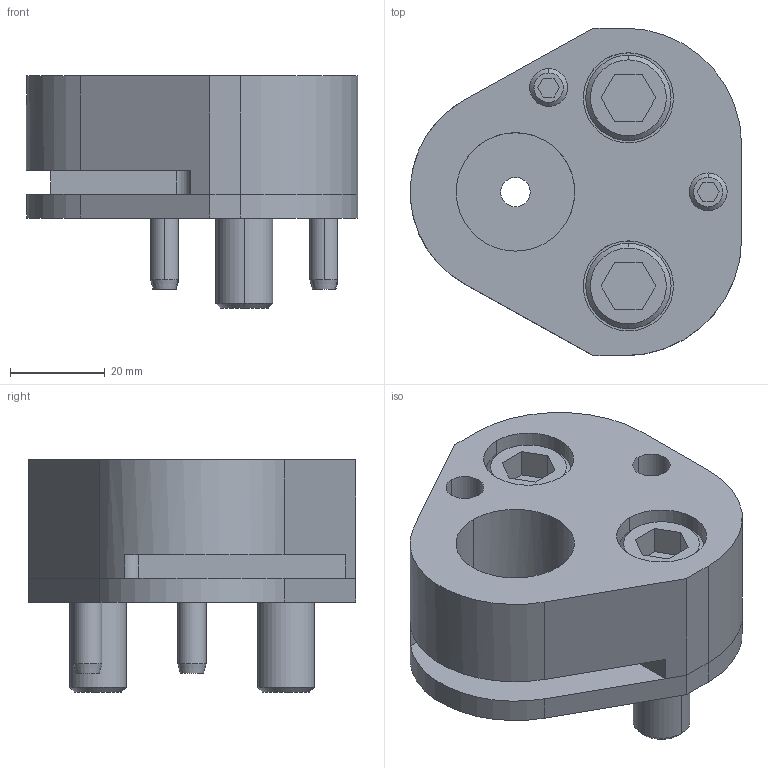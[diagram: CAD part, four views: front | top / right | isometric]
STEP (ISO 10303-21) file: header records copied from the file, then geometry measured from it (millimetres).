
FILE_DESCRIPTION(/* description */ (''),/* implementation_level */ '2;1');
FILE_NAME(/* name */ '3d_25crn-fp25_03147_r00.stp',/* time_stamp */ '2011-01-10T14:17:52+09:00',/* author */ ('MISUMI'),/* organization */ (''),/* preprocessor_version */ 'ST-DEVELOPER v11',/* originating_system */ 'UGS - NX 5.0',/* authorisation */ '');
FILE_SCHEMA (('CONFIG_CONTROL_DESIGN'));
Length unit declared in the file: millimetre
Products named in the file (1): 3d_25crn-fp25_03147_r00
Bounding box: 69.86 x 69.1 x 49 mm (x, y, z)
Volume: 94461.1 mm3; surface area: 32316.5 mm2
Topology: 8 solids, 8 shells, 156 faces, 359 edges, 232 vertices
Faces by surface type: plane 69, cylinder 61, cone 26
Entity records: 4592 total; most frequent: DIRECTION 816, CARTESIAN_POINT 805, ORIENTED_EDGE 718, EDGE_CURVE 359, AXIS2_PLACEMENT_3D 307, VERTEX_POINT 232, LINE 202, VECTOR 202
